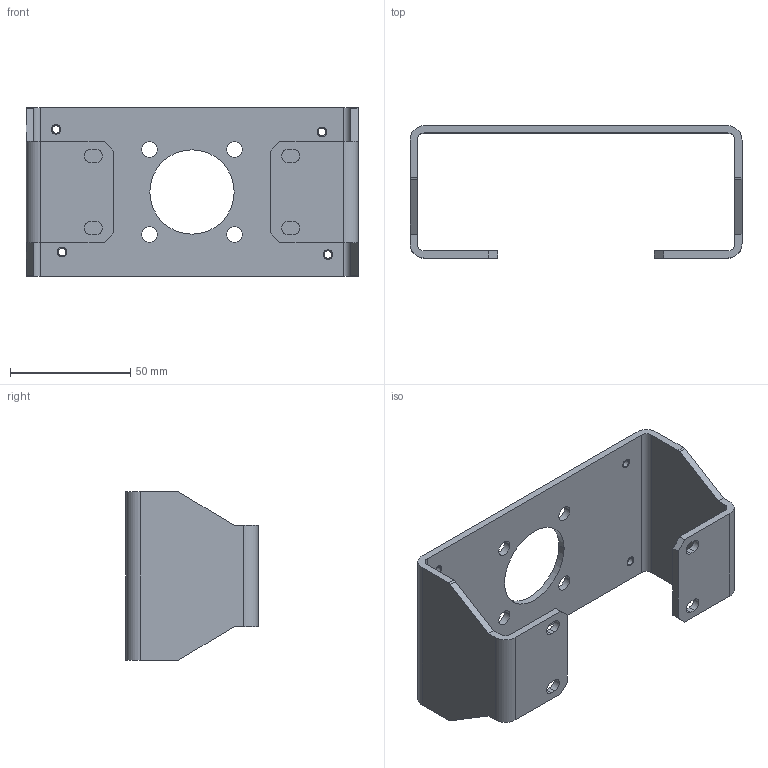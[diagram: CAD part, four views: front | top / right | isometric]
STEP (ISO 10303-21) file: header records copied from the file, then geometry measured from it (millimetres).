
FILE_DESCRIPTION((''),'2;1');
FILE_NAME('DB_21025','2015-05-07T',('DEX218155'),(''),'PRO/ENGINEER BY PARAMETRIC TECHNOLOGY CORPORATION, 2015030','PRO/ENGINEER BY PARAMETRIC TECHNOLOGY CORPORATION, 2015030','');
FILE_SCHEMA(('CONFIG_CONTROL_DESIGN'));
Length unit declared in the file: millimetre
Products named in the file (1): DB_21025
Bounding box: 138 x 55 x 70 mm (x, y, z)
Volume: 50457.6 mm3; surface area: 36836.5 mm2
Topology: 1 solids, 5 shells, 84 faces, 242 edges, 164 vertices
Faces by surface type: cylinder 46, plane 38
Entity records: 2897 total; most frequent: DIRECTION 512, CARTESIAN_POINT 491, ORIENTED_EDGE 468, EDGE_CURVE 242, AXIS2_PLACEMENT_3D 185, VERTEX_POINT 164, VECTOR 142, LINE 142
